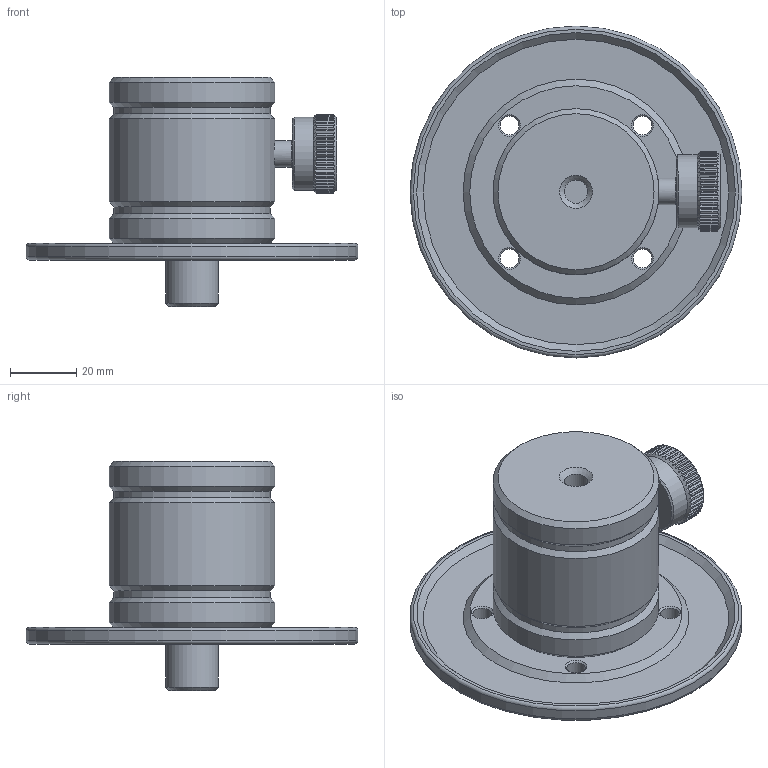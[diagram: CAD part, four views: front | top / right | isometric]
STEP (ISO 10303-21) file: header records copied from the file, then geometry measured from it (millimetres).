
FILE_DESCRIPTION(/* description */ (''),/* implementation_level */ '2;1');
FILE_NAME(/* name */ 'LA-9936-0165-A XK LAUNCH TRIPOD ASSEMBLY.stp',/* time_stamp */ '2021-04-06T15:44:58+01:00',/* author */ (''),/* organization */ (''),/* preprocessor_version */ 'ST-DEVELOPER v16.7',/* originating_system */ 'SIEMENS PLM Software NX 1942',/* authorisation */ '');
FILE_SCHEMA (('AUTOMOTIVE_DESIGN { 1 0 10303 214 3 1 1 1 }'));
Length unit declared in the file: millimetre
Products named in the file (1): LA-9936-0165-A_XK LAUNCH TRIPOD ASSEMBLY
Bounding box: 100 x 100 x 69 mm (x, y, z)
Volume: 135023.2 mm3; surface area: 29593.1 mm2
Topology: 1 solids, 1 shells, 602 faces, 1644 edges, 1090 vertices
Faces by surface type: plane 417, cylinder 75, extrusion 71, cone 32, torus 6, bspline 1
Full cylindrical faces by diameter (mm): 1.7 x1, 2 x1, 4.1 x1, 5.6 x4, 7 x1, 8 x1, 14.4 x1, 15.2 x1, 15.875 x1, 18 x1, 18.25 x1, 18.5 x1, 22 x1, 47 x2, 50 x3, 100 x1
Entity records: 22856 total; most frequent: CARTESIAN_POINT 4455, ORIENTED_EDGE 3114, DIRECTION 2543, EDGE_CURVE 1557, VECTOR 1087, VERTEX_POINT 1066, LINE 1016, AXIS2_PLACEMENT_3D 728
